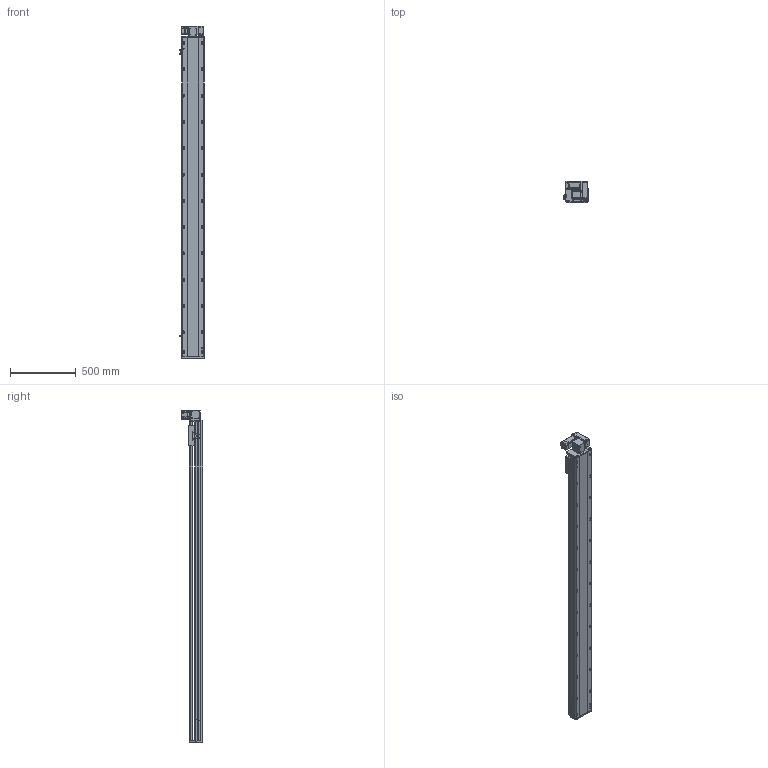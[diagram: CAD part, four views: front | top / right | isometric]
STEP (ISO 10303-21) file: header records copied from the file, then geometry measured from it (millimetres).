
FILE_DESCRIPTION (( 'STEP AP214' ), '1' );
FILE_NAME ('RTB17S-XX-2150-RW-M40-C4.STEP', '2025-12-11T09:09:57', ( '' ), ( '' ), 'SwSTEP 2.0', 'SolidWorks 2018', '' );
FILE_SCHEMA (( 'AUTOMOTIVE_DESIGN' ));
Length unit declared in the file: millimetre
Products named in the file (14): OMRON EE-SX672 传感器^RTB17S-XX-XX-RW-M40-C4; RTB17S-RW-々湍釱蚾饜-400W^RTB17S-XX-XX-RW-M40-C4; RTB17S-L-004佪裝蹟譫蟀諉釱^RTB17S-XX-XX-RW-M40-C4; RTB17S-L-001耜醱啣^RTB17S-XX-XX-RW-M40-C4; RTB17-R-011菁釱^RTB17S-XX-XX-RW-M40-C4; RTB17S-XX-2150-RW-M40-C4; RTB14-L-017P^RTB17S-RW-々湍釱蚾饜-400W_RTB17S-XX-XX-RW-M40-C4; RTB14-L-008-M20--萇儂啣^RTB17S-RW-々湍釱蚾饜-400W_RTB17S-XX-XX-RW-M40-C4; RTB17S-L-007奻裔^RTB17S-XX-XX-RW-M40-C4; RTB14-L-018P^RTB17S-RW-々湍釱蚾饜-400W_RTB17S-XX-XX-RW-M40-C4; RTH13-BL-012覜茼え俋离^RTB17S-XX-XX-RW-M40-C4; RMP17S-L-014-T20--々湍釱^RTB17S-RW-々湍釱蚾饜-400W_RTB17S-XX-XX-RW-M40-C4; RTB14-L-005P--轴承塑胶压盖^RTB17S-RW-皮带座装配-400W_RTB17S-XX-XX-RW-M40-C4; 400W侜督萇儂^RTB17S-XX-XX-RW-M40-C4
Assembly tree (16 placements, depth 3):
  RTB17S-XX-2150-RW-M40-C4
    RTB17-R-011菁釱^RTB17S-XX-XX-RW-M40-C4
    RTB17S-L-007奻裔^RTB17S-XX-XX-RW-M40-C4
    OMRON EE-SX672 传感器^RTB17S-XX-XX-RW-M40-C4  x3
    RTB17S-L-001耜醱啣^RTB17S-XX-XX-RW-M40-C4
    400W侜督萇儂^RTB17S-XX-XX-RW-M40-C4
    RTB17S-L-004佪裝蹟譫蟀諉釱^RTB17S-XX-XX-RW-M40-C4
    RTH13-BL-012覜茼え俋离^RTB17S-XX-XX-RW-M40-C4
    RTB17S-RW-々湍釱蚾饜-400W^RTB17S-XX-XX-RW-M40-C4
      RMP17S-L-014-T20--々湍釱^RTB17S-RW-々湍釱蚾饜-400W_RTB17S-XX-XX-RW-M40-C4
      RTB14-L-005P--轴承塑胶压盖^RTB17S-RW-皮带座装配-400W_RTB17S-XX-XX-RW-M40-C4
      RTB14-L-008-M20--萇儂啣^RTB17S-RW-々湍釱蚾饜-400W_RTB17S-XX-XX-RW-M40-C4
      RTB14-L-017P^RTB17S-RW-々湍釱蚾饜-400W_RTB17S-XX-XX-RW-M40-C4  x2
      RTB14-L-018P^RTB17S-RW-々湍釱蚾饜-400W_RTB17S-XX-XX-RW-M40-C4
Bounding box: 183.5 x 160.5 x 2522.5 mm (x, y, z)
Volume: 21752506.4 mm3; surface area: 2520749.9 mm2
Topology: 15 solids, 15 shells, 2301 faces, 6411 edges, 4185 vertices
Faces by surface type: plane 1080, cylinder 773, bspline 301, cone 139, torus 8
Entity records: 67241 total; most frequent: CARTESIAN_POINT 19016, ORIENTED_EDGE 9666, DIRECTION 8936, EDGE_CURVE 4833, VERTEX_POINT 3173, AXIS2_PLACEMENT_3D 3103, LINE 2730, VECTOR 2730
